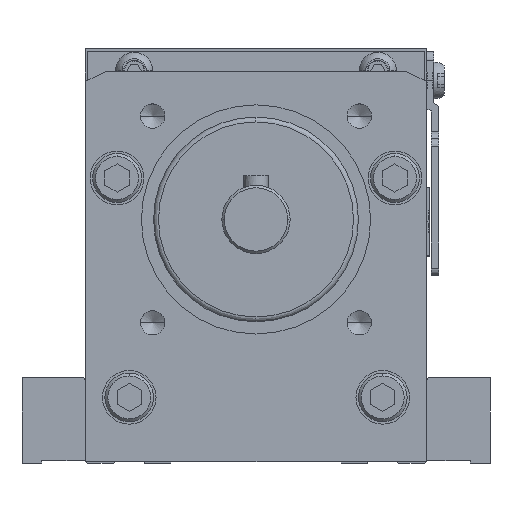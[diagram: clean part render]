
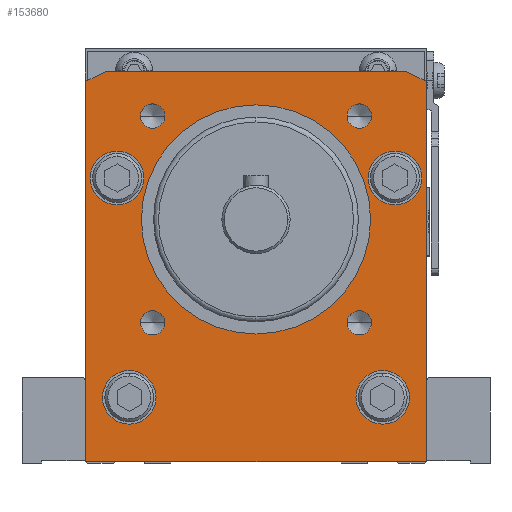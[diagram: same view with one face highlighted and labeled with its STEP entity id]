
A CAD part, front view. The second image highlights one B-rep face of the part: STEP entity #153680.
In plain terms, the highlighted planar face has unit normal (0, -1, 0) as drawn and (0, 0, 1) by its records, which use the part's own axes.
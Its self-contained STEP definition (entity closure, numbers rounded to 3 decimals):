
#150520=CARTESIAN_POINT('',(1538.79,48.217,417.));
#150530=VERTEX_POINT('',#150520);
#150560=CARTESIAN_POINT('',(1538.79,0.,417.));
#150570=DIRECTION('',(0.,-1.,0.));
#150580=VECTOR('',#150570,1.);
#150590=LINE('',#150560,#150580);
#150600=CARTESIAN_POINT('',(1538.79,126.217,417.));
#150610=VERTEX_POINT('',#150600);
#150620=EDGE_CURVE('',#150610,#150530,#150590,.T.);
#151870=CARTESIAN_POINT('',(1515.894,81.892,417.));
#151880=DIRECTION('',(0.,0.,1.));
#151890=DIRECTION('',(1.,0.,0.));
#151900=AXIS2_PLACEMENT_3D('',#151870,#151880,#151890);
#151910=PLANE('',#151900);
#151920=CARTESIAN_POINT('',(1482.69,119.117,417.));
#151930=DIRECTION('',(0.,0.,1.));
#151940=DIRECTION('',(-1.,0.,0.));
#151950=AXIS2_PLACEMENT_3D('',#151920,#151930,#151940);
#151960=CIRCLE('',#151950,2.5);
#151970=CARTESIAN_POINT('',(1480.19,119.117,417.));
#151980=VERTEX_POINT('',#151970);
#151990=CARTESIAN_POINT('',(1485.19,119.117,417.));
#152000=VERTEX_POINT('',#151990);
#152010=EDGE_CURVE('',#151980,#152000,#151960,.T.);
#152020=ORIENTED_EDGE('',*,*,#152010,.F.);
#152030=EDGE_CURVE('',#152000,#151980,#151960,.T.);
#152040=ORIENTED_EDGE('',*,*,#152030,.F.);
#152050=EDGE_LOOP('',(#152040,#152020));
#152060=FACE_BOUND('',#152050,.T.);
#152070=CARTESIAN_POINT('',(1482.69,76.717,417.));
#152080=DIRECTION('',(0.,0.,1.));
#152090=DIRECTION('',(-1.,0.,0.));
#152100=AXIS2_PLACEMENT_3D('',#152070,#152080,#152090);
#152110=CIRCLE('',#152100,2.5);
#152120=CARTESIAN_POINT('',(1480.19,76.717,417.));
#152130=VERTEX_POINT('',#152120);
#152140=CARTESIAN_POINT('',(1485.19,76.717,417.));
#152150=VERTEX_POINT('',#152140);
#152160=EDGE_CURVE('',#152130,#152150,#152110,.T.);
#152170=ORIENTED_EDGE('',*,*,#152160,.F.);
#152180=EDGE_CURVE('',#152150,#152130,#152110,.T.);
#152190=ORIENTED_EDGE('',*,*,#152180,.F.);
#152200=EDGE_LOOP('',(#152190,#152170));
#152210=FACE_BOUND('',#152200,.T.);
#152220=CARTESIAN_POINT('',(1525.09,76.717,417.));
#152230=DIRECTION('',(0.,0.,1.));
#152240=DIRECTION('',(-1.,0.,0.));
#152250=AXIS2_PLACEMENT_3D('',#152220,#152230,#152240);
#152260=CIRCLE('',#152250,2.5);
#152270=CARTESIAN_POINT('',(1522.59,76.717,417.));
#152280=VERTEX_POINT('',#152270);
#152290=CARTESIAN_POINT('',(1527.59,76.717,417.));
#152300=VERTEX_POINT('',#152290);
#152310=EDGE_CURVE('',#152280,#152300,#152260,.T.);
#152320=ORIENTED_EDGE('',*,*,#152310,.F.);
#152330=EDGE_CURVE('',#152300,#152280,#152260,.T.);
#152340=ORIENTED_EDGE('',*,*,#152330,.F.);
#152350=EDGE_LOOP('',(#152340,#152320));
#152360=FACE_BOUND('',#152350,.T.);
#152370=CARTESIAN_POINT('',(1532.39,106.417,417.));
#152380=DIRECTION('',(0.,0.,1.));
#152390=DIRECTION('',(1.,0.,0.));
#152400=AXIS2_PLACEMENT_3D('',#152370,#152380,#152390);
#152410=CIRCLE('',#152400,5.5);
#152420=CARTESIAN_POINT('',(1537.89,106.417,417.));
#152430=VERTEX_POINT('',#152420);
#152440=CARTESIAN_POINT('',(1526.89,106.417,417.));
#152450=VERTEX_POINT('',#152440);
#152460=EDGE_CURVE('',#152430,#152450,#152410,.T.);
#152470=ORIENTED_EDGE('',*,*,#152460,.F.);
#152480=EDGE_CURVE('',#152450,#152430,#152410,.T.);
#152490=ORIENTED_EDGE('',*,*,#152480,.F.);
#152500=EDGE_LOOP('',(#152490,#152470));
#152510=FACE_BOUND('',#152500,.T.);
#152520=CARTESIAN_POINT('',(1477.89,61.417,417.));
#152530=DIRECTION('',(0.,0.,1.));
#152540=DIRECTION('',(1.,0.,0.));
#152550=AXIS2_PLACEMENT_3D('',#152520,#152530,#152540);
#152560=CIRCLE('',#152550,5.5);
#152570=CARTESIAN_POINT('',(1483.39,61.417,417.));
#152580=VERTEX_POINT('',#152570);
#152590=CARTESIAN_POINT('',(1472.39,61.417,417.));
#152600=VERTEX_POINT('',#152590);
#152610=EDGE_CURVE('',#152580,#152600,#152560,.T.);
#152620=ORIENTED_EDGE('',*,*,#152610,.F.);
#152630=EDGE_CURVE('',#152600,#152580,#152560,.T.);
#152640=ORIENTED_EDGE('',*,*,#152630,.F.);
#152650=EDGE_LOOP('',(#152640,#152620));
#152660=FACE_BOUND('',#152650,.T.);
#152670=CARTESIAN_POINT('',(1475.39,106.417,417.));
#152680=DIRECTION('',(0.,0.,1.));
#152690=DIRECTION('',(1.,0.,0.));
#152700=AXIS2_PLACEMENT_3D('',#152670,#152680,#152690);
#152710=CIRCLE('',#152700,5.5);
#152720=CARTESIAN_POINT('',(1480.89,106.417,417.));
#152730=VERTEX_POINT('',#152720);
#152740=CARTESIAN_POINT('',(1469.89,106.417,417.));
#152750=VERTEX_POINT('',#152740);
#152760=EDGE_CURVE('',#152730,#152750,#152710,.T.);
#152770=ORIENTED_EDGE('',*,*,#152760,.F.);
#152780=EDGE_CURVE('',#152750,#152730,#152710,.T.);
#152790=ORIENTED_EDGE('',*,*,#152780,.F.);
#152800=EDGE_LOOP('',(#152790,#152770));
#152810=FACE_BOUND('',#152800,.T.);
#152820=CARTESIAN_POINT('',(1529.89,61.417,417.));
#152830=DIRECTION('',(0.,0.,1.));
#152840=DIRECTION('',(1.,0.,0.));
#152850=AXIS2_PLACEMENT_3D('',#152820,#152830,#152840);
#152860=CIRCLE('',#152850,5.5);
#152870=CARTESIAN_POINT('',(1535.39,61.417,417.));
#152880=VERTEX_POINT('',#152870);
#152890=CARTESIAN_POINT('',(1524.39,61.417,417.));
#152900=VERTEX_POINT('',#152890);
#152910=EDGE_CURVE('',#152880,#152900,#152860,.T.);
#152920=ORIENTED_EDGE('',*,*,#152910,.F.);
#152930=EDGE_CURVE('',#152900,#152880,#152860,.T.);
#152940=ORIENTED_EDGE('',*,*,#152930,.F.);
#152950=EDGE_LOOP('',(#152940,#152920));
#152960=FACE_BOUND('',#152950,.T.);
#152970=CARTESIAN_POINT('',(1503.89,97.917,417.));
#152980=DIRECTION('',(0.,0.,1.));
#152990=DIRECTION('',(1.,0.,0.));
#153000=AXIS2_PLACEMENT_3D('',#152970,#152980,#152990);
#153010=CIRCLE('',#153000,23.5);
#153020=CARTESIAN_POINT('',(1527.39,97.917,417.));
#153030=VERTEX_POINT('',#153020);
#153040=CARTESIAN_POINT('',(1480.39,97.917,417.));
#153050=VERTEX_POINT('',#153040);
#153060=EDGE_CURVE('',#153030,#153050,#153010,.T.);
#153070=ORIENTED_EDGE('',*,*,#153060,.F.);
#153080=EDGE_CURVE('',#153050,#153030,#153010,.T.);
#153090=ORIENTED_EDGE('',*,*,#153080,.F.);
#153100=EDGE_LOOP('',(#153090,#153070));
#153110=FACE_BOUND('',#153100,.T.);
#153120=CARTESIAN_POINT('',(1525.09,119.117,417.));
#153130=DIRECTION('',(0.,0.,1.));
#153140=DIRECTION('',(-1.,0.,0.));
#153150=AXIS2_PLACEMENT_3D('',#153120,#153130,#153140);
#153160=CIRCLE('',#153150,2.5);
#153170=CARTESIAN_POINT('',(1522.59,119.117,417.));
#153180=VERTEX_POINT('',#153170);
#153190=CARTESIAN_POINT('',(1527.59,119.117,417.));
#153200=VERTEX_POINT('',#153190);
#153210=EDGE_CURVE('',#153180,#153200,#153160,.T.);
#153220=ORIENTED_EDGE('',*,*,#153210,.F.);
#153230=EDGE_CURVE('',#153200,#153180,#153160,.T.);
#153240=ORIENTED_EDGE('',*,*,#153230,.F.);
#153250=EDGE_LOOP('',(#153240,#153220));
#153260=FACE_BOUND('',#153250,.T.);
#153270=CARTESIAN_POINT('',(0.,48.217,417.));
#153280=DIRECTION('',(1.,0.,0.));
#153290=VECTOR('',#153280,1.);
#153300=LINE('',#153270,#153290);
#153310=CARTESIAN_POINT('',(1468.99,48.217,417.));
#153320=VERTEX_POINT('',#153310);
#153330=EDGE_CURVE('',#153320,#150530,#153300,.T.);
#153340=ORIENTED_EDGE('',*,*,#153330,.T.);
#153350=CARTESIAN_POINT('',(1468.99,0.,417.));
#153360=DIRECTION('',(0.,1.,0.));
#153370=VECTOR('',#153360,1.);
#153380=LINE('',#153350,#153370);
#153390=CARTESIAN_POINT('',(1468.99,126.217,417.));
#153400=VERTEX_POINT('',#153390);
#153410=EDGE_CURVE('',#153320,#153400,#153380,.T.);
#153420=ORIENTED_EDGE('',*,*,#153410,.F.);
#153430=CARTESIAN_POINT('',(0.,-608.278,417.));
#153440=DIRECTION('',(-0.894,-0.447,
0.));
#153450=VECTOR('',#153440,1.);
#153460=LINE('',#153430,#153450);
#153470=CARTESIAN_POINT('',(1472.99,128.217,417.));
#153480=VERTEX_POINT('',#153470);
#153490=EDGE_CURVE('',#153480,#153400,#153460,.T.);
#153500=ORIENTED_EDGE('',*,*,#153490,.T.);
#153510=CARTESIAN_POINT('',(0.,128.217,417.));
#153520=DIRECTION('',(1.,0.,0.));
#153530=VECTOR('',#153520,1.);
#153540=LINE('',#153510,#153530);
#153550=CARTESIAN_POINT('',(1534.79,128.217,417.));
#153560=VERTEX_POINT('',#153550);
#153570=EDGE_CURVE('',#153480,#153560,#153540,.T.);
#153580=ORIENTED_EDGE('',*,*,#153570,.F.);
#153590=CARTESIAN_POINT('',(0.,895.612,417.));
#153600=DIRECTION('',(-0.894,0.447,0.));
#153610=VECTOR('',#153600,1.);
#153620=LINE('',#153590,#153610);
#153630=EDGE_CURVE('',#150610,#153560,#153620,.T.);
#153640=ORIENTED_EDGE('',*,*,#153630,.T.);
#153650=ORIENTED_EDGE('',*,*,#150620,.F.);
#153660=EDGE_LOOP('',(#153650,#153640,#153580,#153500,#153420,#153340));
#153670=FACE_OUTER_BOUND('',#153660,.T.);
#153680=ADVANCED_FACE('',(#152060,#152210,#152360,#152510,#152660,
#152810,#152960,#153110,#153260,#153670),#151910,.T.);
